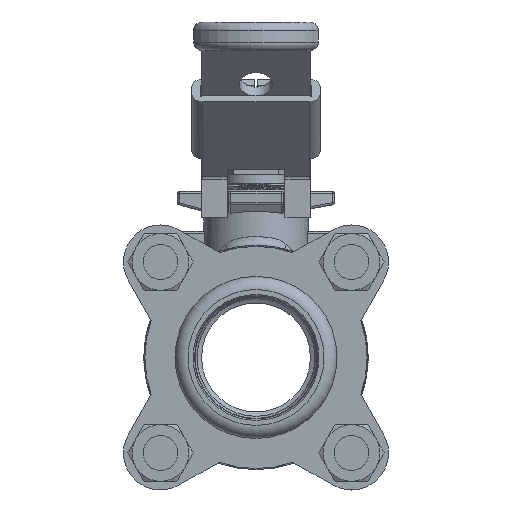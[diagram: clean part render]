
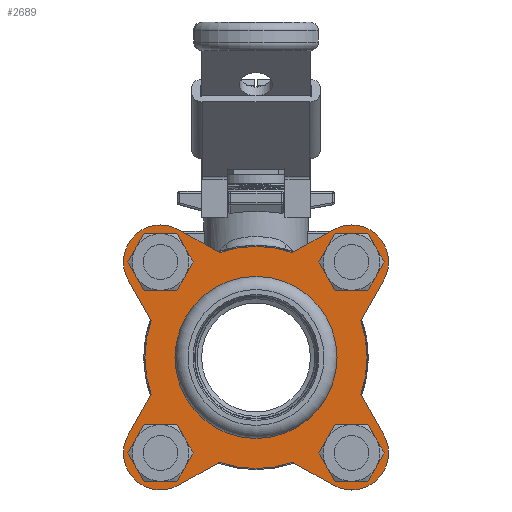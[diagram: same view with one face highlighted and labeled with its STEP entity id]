
A CAD part, left-side view. The second image highlights one B-rep face of the part: STEP entity #2689.
In plain terms, the highlighted planar face has unit normal (-1, 0, 0) as drawn and (0, 0, 1) by its records, which use the part's own axes.
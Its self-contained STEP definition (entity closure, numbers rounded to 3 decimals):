
#2689=ADVANCED_FACE('',(#5137,#5138,#5139,#5140,#5141,#5142),#5143,.F.);
#5137=FACE_BOUND('',#77848,.T.);
#5138=FACE_OUTER_BOUND('',#77849,.T.);
#5139=FACE_BOUND('',#77850,.T.);
#5140=FACE_BOUND('',#77851,.T.);
#5141=FACE_BOUND('',#77852,.T.);
#5142=FACE_BOUND('',#77853,.T.);
#5143=PLANE('',#77854);
#77848=EDGE_LOOP('',(#83526));
#77849=EDGE_LOOP('',(#83527,#83528,#83529,#83530,#83531,#83532,#83533,#83534,#83535,#83536,#83537,#83538,#83539,#83540,#83541,#83542));
#77850=EDGE_LOOP('',(#83543));
#77851=EDGE_LOOP('',(#83544));
#77852=EDGE_LOOP('',(#83545));
#77853=EDGE_LOOP('',(#83546));
#77854=AXIS2_PLACEMENT_3D('',#83547,#83548,#83549);
#83526=ORIENTED_EDGE('',*,*,#86001,.F.);
#83527=ORIENTED_EDGE('',*,*,#86002,.T.);
#83528=ORIENTED_EDGE('',*,*,#86003,.T.);
#83529=ORIENTED_EDGE('',*,*,#86004,.T.);
#83530=ORIENTED_EDGE('',*,*,#86005,.T.);
#83531=ORIENTED_EDGE('',*,*,#86006,.T.);
#83532=ORIENTED_EDGE('',*,*,#85985,.T.);
#83533=ORIENTED_EDGE('',*,*,#86007,.T.);
#83534=ORIENTED_EDGE('',*,*,#85949,.T.);
#83535=ORIENTED_EDGE('',*,*,#86008,.T.);
#83536=ORIENTED_EDGE('',*,*,#86009,.T.);
#83537=ORIENTED_EDGE('',*,*,#86010,.T.);
#83538=ORIENTED_EDGE('',*,*,#86011,.T.);
#83539=ORIENTED_EDGE('',*,*,#86012,.T.);
#83540=ORIENTED_EDGE('',*,*,#85958,.T.);
#83541=ORIENTED_EDGE('',*,*,#85963,.T.);
#83542=ORIENTED_EDGE('',*,*,#85941,.T.);
#83543=ORIENTED_EDGE('',*,*,#86013,.T.);
#83544=ORIENTED_EDGE('',*,*,#86014,.T.);
#83545=ORIENTED_EDGE('',*,*,#85999,.T.);
#83546=ORIENTED_EDGE('',*,*,#86015,.T.);
#83547=CARTESIAN_POINT('',(-0.302,0.,10.0));
#83548=DIRECTION('',(0.0,0.0,-1.0));
#83549=DIRECTION('',(-1.0,0.0,0.0));
#85941=EDGE_CURVE('',#89319,#89320,#89321,.T.);
#85949=EDGE_CURVE('',#89333,#89334,#89335,.T.);
#85958=EDGE_CURVE('',#89347,#89348,#89349,.T.);
#85963=EDGE_CURVE('',#89348,#89319,#89356,.T.);
#85985=EDGE_CURVE('',#89388,#89389,#89390,.T.);
#85999=EDGE_CURVE('',#89410,#89410,#89411,.T.);
#86001=EDGE_CURVE('',#89413,#89413,#89414,.T.);
#86002=EDGE_CURVE('',#89320,#89415,#89416,.T.);
#86003=EDGE_CURVE('',#89415,#89417,#89418,.T.);
#86004=EDGE_CURVE('',#89417,#89419,#89420,.T.);
#86005=EDGE_CURVE('',#89419,#89421,#89422,.T.);
#86006=EDGE_CURVE('',#89421,#89388,#89423,.T.);
#86007=EDGE_CURVE('',#89389,#89333,#89424,.T.);
#86008=EDGE_CURVE('',#89334,#89425,#89426,.T.);
#86009=EDGE_CURVE('',#89425,#89427,#89428,.T.);
#86010=EDGE_CURVE('',#89427,#89429,#89430,.T.);
#86011=EDGE_CURVE('',#89429,#89431,#89432,.T.);
#86012=EDGE_CURVE('',#89431,#89347,#89433,.T.);
#86013=EDGE_CURVE('',#89434,#89434,#89435,.T.);
#86014=EDGE_CURVE('',#89436,#89436,#89437,.T.);
#86015=EDGE_CURVE('',#89438,#89438,#89439,.T.);
#89319=VERTEX_POINT('',#100737);
#89320=VERTEX_POINT('',#100738);
#89321=LINE('',#100739,#100740);
#89333=VERTEX_POINT('',#100755);
#89334=VERTEX_POINT('',#100756);
#89335=LINE('',#100757,#100758);
#89347=VERTEX_POINT('',#100772);
#89348=VERTEX_POINT('',#100773);
#89349=LINE('',#100774,#100775);
#89356=CIRCLE('',#100785,8.5);
#89388=VERTEX_POINT('',#100817);
#89389=VERTEX_POINT('',#100818);
#89390=LINE('',#100819,#100820);
#89410=VERTEX_POINT('',#100842);
#89411=CIRCLE('',#100843,4.15);
#89413=VERTEX_POINT('',#100845);
#89414=CIRCLE('',#100846,17.5);
#89415=VERTEX_POINT('',#100847);
#89416=CIRCLE('',#100848,25.5);
#89417=VERTEX_POINT('',#100849);
#89418=LINE('',#100850,#100851);
#89419=VERTEX_POINT('',#100852);
#89420=CIRCLE('',#100853,8.5);
#89421=VERTEX_POINT('',#100854);
#89422=LINE('',#100855,#100856);
#89423=CIRCLE('',#100857,25.5);
#89424=CIRCLE('',#100858,8.5);
#89425=VERTEX_POINT('',#100859);
#89426=CIRCLE('',#100860,25.5);
#89427=VERTEX_POINT('',#100861);
#89428=LINE('',#100862,#100863);
#89429=VERTEX_POINT('',#100864);
#89430=CIRCLE('',#100865,8.5);
#89431=VERTEX_POINT('',#100866);
#89432=LINE('',#100867,#100868);
#89433=CIRCLE('',#100869,25.5);
#89434=VERTEX_POINT('',#100870);
#89435=CIRCLE('',#100871,4.15);
#89436=VERTEX_POINT('',#100872);
#89437=CIRCLE('',#100873,4.15);
#89438=VERTEX_POINT('',#100874);
#89439=CIRCLE('',#100875,4.15);
#100737=CARTESIAN_POINT('',(17.761,29.333,10.0));
#100738=CARTESIAN_POINT('',(8.395,24.079,10.0));
#100739=CARTESIAN_POINT('',(8.395,24.079,10.0));
#100740=VECTOR('',#102771,1.0);
#100755=CARTESIAN_POINT('',(-17.761,-29.333,10.0));
#100756=CARTESIAN_POINT('',(-8.395,-24.079,10.0));
#100757=CARTESIAN_POINT('',(-8.395,-24.079,10.0));
#100758=VECTOR('',#102781,1.0);
#100772=CARTESIAN_POINT('',(24.079,8.395,10.0));
#100773=CARTESIAN_POINT('',(29.333,17.761,10.0));
#100774=CARTESIAN_POINT('',(29.333,17.761,10.0));
#100775=VECTOR('',#102793,1.0);
#100785=AXIS2_PLACEMENT_3D('',#102797,#102798,#102799);
#100817=CARTESIAN_POINT('',(-24.079,-8.395,10.0));
#100818=CARTESIAN_POINT('',(-29.333,-17.761,10.0));
#100819=CARTESIAN_POINT('',(-29.333,-17.761,10.0));
#100820=VECTOR('',#102833,1.0);
#100842=CARTESIAN_POINT('',(17.77,21.92,10.0));
#100843=AXIS2_PLACEMENT_3D('',#102854,#102855,#102856);
#100845=CARTESIAN_POINT('',(-17.5,0.,10.0));
#100846=AXIS2_PLACEMENT_3D('',#102857,#102858,#102859);
#100847=CARTESIAN_POINT('',(-8.395,24.079,10.0));
#100848=AXIS2_PLACEMENT_3D('',#102860,#102861,#102862);
#100849=CARTESIAN_POINT('',(-17.761,29.333,10.0));
#100850=CARTESIAN_POINT('',(-17.761,29.333,10.0));
#100851=VECTOR('',#102863,1.0);
#100852=CARTESIAN_POINT('',(-29.333,17.761,10.0));
#100853=AXIS2_PLACEMENT_3D('',#102864,#102865,#102866);
#100854=CARTESIAN_POINT('',(-24.079,8.395,10.0));
#100855=CARTESIAN_POINT('',(-24.079,8.395,10.0));
#100856=VECTOR('',#102867,1.0);
#100857=AXIS2_PLACEMENT_3D('',#102868,#102869,#102870);
#100858=AXIS2_PLACEMENT_3D('',#102871,#102872,#102873);
#100859=CARTESIAN_POINT('',(8.395,-24.079,10.0));
#100860=AXIS2_PLACEMENT_3D('',#102874,#102875,#102876);
#100861=CARTESIAN_POINT('',(17.761,-29.333,10.0));
#100862=CARTESIAN_POINT('',(17.761,-29.333,10.0));
#100863=VECTOR('',#102877,1.0);
#100864=CARTESIAN_POINT('',(29.333,-17.761,10.0));
#100865=AXIS2_PLACEMENT_3D('',#102878,#102879,#102880);
#100866=CARTESIAN_POINT('',(24.079,-8.395,10.0));
#100867=CARTESIAN_POINT('',(24.079,-8.395,10.0));
#100868=VECTOR('',#102881,1.0);
#100869=AXIS2_PLACEMENT_3D('',#102882,#102883,#102884);
#100870=CARTESIAN_POINT('',(-26.07,-21.92,10.0));
#100871=AXIS2_PLACEMENT_3D('',#102885,#102886,#102887);
#100872=CARTESIAN_POINT('',(17.77,-21.92,10.0));
#100873=AXIS2_PLACEMENT_3D('',#102888,#102889,#102890);
#100874=CARTESIAN_POINT('',(-26.07,21.92,10.0));
#100875=AXIS2_PLACEMENT_3D('',#102891,#102892,#102893);
#102771=DIRECTION('',(-0.872,-0.489,0.0));
#102781=DIRECTION('',(0.872,0.489,0.0));
#102793=DIRECTION('',(0.489,0.872,0.0));
#102797=CARTESIAN_POINT('',(21.92,21.92,10.0));
#102798=DIRECTION('',(0.0,0.0,1.0));
#102799=DIRECTION('',(-1.0,0.0,0.0));
#102833=DIRECTION('',(-0.489,-0.872,0.0));
#102854=CARTESIAN_POINT('',(21.92,21.92,10.0));
#102855=DIRECTION('',(0.0,0.0,-1.0));
#102856=DIRECTION('',(1.0,0.0,0.0));
#102857=CARTESIAN_POINT('',(0.0,0.,10.0));
#102858=DIRECTION('',(0.0,0.0,1.0));
#102859=DIRECTION('',(1.0,0.,0.0));
#102860=CARTESIAN_POINT('',(0.,0.,10.0));
#102861=DIRECTION('',(0.0,0.0,1.0));
#102862=DIRECTION('',(-1.0,0.0,0.0));
#102863=DIRECTION('',(-0.872,0.489,0.0));
#102864=CARTESIAN_POINT('',(-21.92,21.92,10.0));
#102865=DIRECTION('',(0.0,0.0,1.0));
#102866=DIRECTION('',(-1.0,0.0,0.0));
#102867=DIRECTION('',(0.489,-0.872,0.0));
#102868=CARTESIAN_POINT('',(0.,0.,10.0));
#102869=DIRECTION('',(0.0,0.0,1.0));
#102870=DIRECTION('',(-1.0,0.0,0.0));
#102871=CARTESIAN_POINT('',(-21.92,-21.92,10.0));
#102872=DIRECTION('',(0.0,0.0,1.0));
#102873=DIRECTION('',(-1.0,0.0,0.0));
#102874=CARTESIAN_POINT('',(0.,0.,10.0));
#102875=DIRECTION('',(0.0,0.0,1.0));
#102876=DIRECTION('',(-1.0,0.0,0.0));
#102877=DIRECTION('',(0.872,-0.489,0.0));
#102878=CARTESIAN_POINT('',(21.92,-21.92,10.0));
#102879=DIRECTION('',(0.0,0.0,1.0));
#102880=DIRECTION('',(-1.0,0.0,0.0));
#102881=DIRECTION('',(-0.489,0.872,0.0));
#102882=CARTESIAN_POINT('',(0.,0.,10.0));
#102883=DIRECTION('',(0.0,0.0,1.0));
#102884=DIRECTION('',(-1.0,0.0,0.0));
#102885=CARTESIAN_POINT('',(-21.92,-21.92,10.0));
#102886=DIRECTION('',(0.0,0.0,-1.0));
#102887=DIRECTION('',(1.0,0.0,0.0));
#102888=CARTESIAN_POINT('',(21.92,-21.92,10.0));
#102889=DIRECTION('',(0.0,0.0,-1.0));
#102890=DIRECTION('',(1.0,0.0,0.0));
#102891=CARTESIAN_POINT('',(-21.92,21.92,10.0));
#102892=DIRECTION('',(0.0,0.0,-1.0));
#102893=DIRECTION('',(1.0,0.0,0.0));
